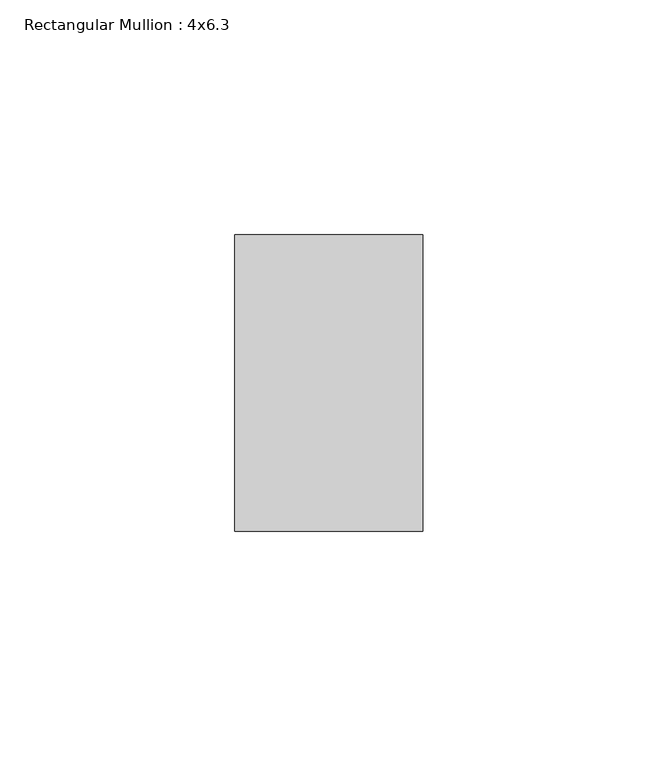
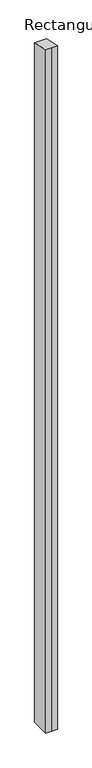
"""IFC4 building model written with IfcOpenShell, lengths in millimetres: member geometry, Rectangular Mullion : 4x6.3."""

from ifc_helpers import new_model, si_unit, origin, place, context, project, spatial, faceted_brep, source, transform, mapped, element, save


def rectangular_mullion_4x6_3_d45fb135(model_context):
    return source(origin(), model_context, "Body", "Brep", [
        faceted_brep([(-20.0, 20.0, -2438.4055348), (-20.0, 83.0, -2438.4055348), (20.0, 83.0, -2438.4055348), (20.0, 20.0, -2438.4055348), (0.0, 20.0, -2438.4055348), (0.0, 20.0, -4.3995804), (-20.0, 20.0, -4.3995804), (20.0, 20.0, -4.3995804), (20.0, 83.0, -18.2582585), (-20.0, 83.0, -18.2582585)], [[[0, 1, 2, 3, 4]], [[5, 6, 0, 4]], [[7, 5, 4, 3]], [[8, 7, 3, 2]], [[9, 8, 2, 1]], [[6, 9, 1, 0]], [[6, 5, 7, 8, 9]]]),
    ])


if __name__ == "__main__":
    model = new_model("IFC4")
    model_context = context("Model", 3, world=origin())
    ifc_project = project(units=[si_unit("LENGTHUNIT", "METRE", prefix="MILLI")], contexts=[model_context])
    site = spatial("IfcSite", under=ifc_project)
    building = spatial("IfcBuilding", under=site)
    placement = place(None, origin())
    rectangular_mullion_4x6_3_shape = rectangular_mullion_4x6_3_d45fb135(model_context)
    element("IfcMember", 1, ObjectType="Rectangular Mullion : 4x6.3", at=placement, inside=building, context=model_context, shape_type="MappedRepresentation", body=[
        mapped(rectangular_mullion_4x6_3_shape, transform((0.0, 0.0, 0.0), x_axis=(1.0, 0.0, 0.0), y_axis=(0.0, 1.0, 0.0), z_axis=(0.0, 0.0, 1.0))),
    ])
    save(model, "model.ifc")
